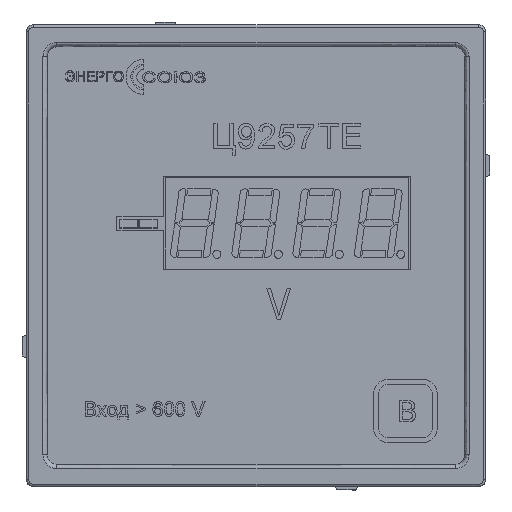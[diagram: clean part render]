
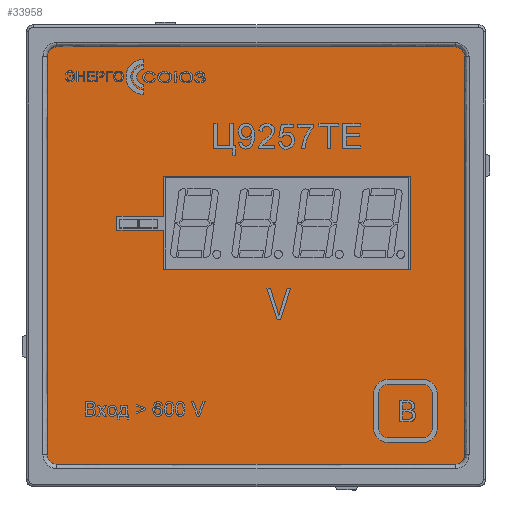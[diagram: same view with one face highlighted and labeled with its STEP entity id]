
A CAD part, top view. The second image highlights one B-rep face of the part: STEP entity #33958.
In plain terms, the highlighted planar face has unit normal (0, 0, 1).
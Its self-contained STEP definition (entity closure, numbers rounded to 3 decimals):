
#114 = AXIS2_PLACEMENT_3D ( 'NONE', #66237, #49463, #80962 ) ;
#970 = CIRCLE ( 'NONE', #91860, 1. ) ;
#1674 = CIRCLE ( 'NONE', #114, 1. ) ;
#3347 = CARTESIAN_POINT ( 'NONE',  ( 31.999, 16.397, 0. ) ) ;
#3842 = CARTESIAN_POINT ( 'NONE',  ( -43.77, -43.769, 0. ) ) ;
#4700 = VECTOR ( 'NONE', #10841, 1000. ) ;
#5131 = CARTESIAN_POINT ( 'NONE',  ( -44.77, -44.769, 0. ) ) ;
#5143 = EDGE_CURVE ( 'NONE', #89810, #27941, #50990, .T. ) ;
#5691 = AXIS2_PLACEMENT_3D ( 'NONE', #76184, #38035, #6562 ) ;
#6562 = DIRECTION ( 'NONE',  ( -1., 0., 0. ) ) ;
#8451 = VERTEX_POINT ( 'NONE', #61450 ) ;
#8534 = ORIENTED_EDGE ( 'NONE', *, *, #67597, .T. ) ;
#8544 = DIRECTION ( 'NONE',  ( 0., -1., 0. ) ) ;
#9609 = EDGE_CURVE ( 'NONE', #93718, #50923, #19336, .T. ) ;
#9688 = VERTEX_POINT ( 'NONE', #85733 ) ;
#10518 = ORIENTED_EDGE ( 'NONE', *, *, #97157, .T. ) ;
#10841 = DIRECTION ( 'NONE',  ( 1., 0., 0. ) ) ;
#13471 = CARTESIAN_POINT ( 'NONE',  ( 44.77, -44.769, 0. ) ) ;
#14040 = LINE ( 'NONE', #72129, #41871 ) ;
#14076 = CARTESIAN_POINT ( 'NONE',  ( -19.104, 5.235, 0. ) ) ;
#15636 = DIRECTION ( 'NONE',  ( 0., -1., 0. ) ) ;
#16452 = ORIENTED_EDGE ( 'NONE', *, *, #82774, .T. ) ;
#16474 = CARTESIAN_POINT ( 'NONE',  ( -19.104, -2.937, 0. ) ) ;
#18901 = EDGE_CURVE ( 'NONE', #77132, #56161, #48339, .T. ) ;
#19336 = LINE ( 'NONE', #5131, #63429 ) ;
#19929 = VERTEX_POINT ( 'NONE', #55987 ) ;
#22440 = CARTESIAN_POINT ( 'NONE',  ( -19.104, -2.937, 0. ) ) ;
#23540 = VERTEX_POINT ( 'NONE', #14076 ) ;
#24791 = CARTESIAN_POINT ( 'NONE',  ( -28.75, 5.235, 0. ) ) ;
#27578 = CARTESIAN_POINT ( 'NONE',  ( -44.77, 43.769, 0. ) ) ;
#27941 = VERTEX_POINT ( 'NONE', #92272 ) ;
#28903 = FACE_OUTER_BOUND ( 'NONE', #91216, .T. ) ;
#30280 = DIRECTION ( 'NONE',  ( -1., 0., 0. ) ) ;
#31427 = LINE ( 'NONE', #78663, #73723 ) ;
#33476 = DIRECTION ( 'NONE',  ( -1., 0., 0. ) ) ;
#33587 = EDGE_LOOP ( 'NONE', ( #52746, #85053, #45502, #47606, #44379, #84949, #43474, #43259 ) ) ;
#33656 = CIRCLE ( 'NONE', #74225, 1. ) ;
#33958 = ADVANCED_FACE ( 'NONE', ( #51792, #28903 ), #75159, .F. ) ;
#34386 = CARTESIAN_POINT ( 'NONE',  ( -43.77, -44.769, 0. ) ) ;
#37259 = VECTOR ( 'NONE', #97867, 1000. ) ;
#37549 = CARTESIAN_POINT ( 'NONE',  ( -28.75, 5.235, 0. ) ) ;
#38035 = DIRECTION ( 'NONE',  ( 0., 0., -1. ) ) ;
#39430 = VECTOR ( 'NONE', #15636, 1000. ) ;
#40311 = LINE ( 'NONE', #16474, #53960 ) ;
#40637 = EDGE_CURVE ( 'NONE', #53760, #78518, #76570, .T. ) ;
#41052 = CARTESIAN_POINT ( 'NONE',  ( -43.77, 44.77, 0. ) ) ;
#41871 = VECTOR ( 'NONE', #33476, 1000. ) ;
#42225 = DIRECTION ( 'NONE',  ( 1., 0., 0. ) ) ;
#42772 = VERTEX_POINT ( 'NONE', #24791 ) ;
#43259 = ORIENTED_EDGE ( 'NONE', *, *, #5143, .F. ) ;
#43474 = ORIENTED_EDGE ( 'NONE', *, *, #75558, .F. ) ;
#44379 = ORIENTED_EDGE ( 'NONE', *, *, #51886, .F. ) ;
#45473 = LINE ( 'NONE', #13471, #51351 ) ;
#45502 = ORIENTED_EDGE ( 'NONE', *, *, #49520, .F. ) ;
#46065 = ORIENTED_EDGE ( 'NONE', *, *, #62365, .T. ) ;
#46700 = CARTESIAN_POINT ( 'NONE',  ( -44.77, -43.769, 0. ) ) ;
#47361 = CARTESIAN_POINT ( 'NONE',  ( -44.77, -44.769, 0. ) ) ;
#47606 = ORIENTED_EDGE ( 'NONE', *, *, #73346, .F. ) ;
#47656 = CARTESIAN_POINT ( 'NONE',  ( 31.999, 16.397, 0. ) ) ;
#48339 = LINE ( 'NONE', #47361, #64736 ) ;
#48378 = EDGE_CURVE ( 'NONE', #62125, #8451, #66612, .T. ) ;
#48695 = CARTESIAN_POINT ( 'NONE',  ( 43.77, -43.769, 0. ) ) ;
#48849 = DIRECTION ( 'NONE',  ( 1., 0., 0. ) ) ;
#49463 = DIRECTION ( 'NONE',  ( 0., 0., 1. ) ) ;
#49520 = EDGE_CURVE ( 'NONE', #94973, #42772, #84772, .T. ) ;
#49953 = CIRCLE ( 'NONE', #92184, 1. ) ;
#50093 = DIRECTION ( 'NONE',  ( -1., 0., 0. ) ) ;
#50672 = ORIENTED_EDGE ( 'NONE', *, *, #18901, .T. ) ;
#50923 = VERTEX_POINT ( 'NONE', #90143 ) ;
#50990 = LINE ( 'NONE', #73845, #4700 ) ;
#51351 = VECTOR ( 'NONE', #51579, 1000. ) ;
#51579 = DIRECTION ( 'NONE',  ( 0., 1., 0. ) ) ;
#51792 = FACE_BOUND ( 'NONE', #33587, .T. ) ;
#51886 = EDGE_CURVE ( 'NONE', #8451, #19929, #31427, .T. ) ;
#52746 = ORIENTED_EDGE ( 'NONE', *, *, #79234, .F. ) ;
#53642 = EDGE_CURVE ( 'NONE', #50923, #99664, #970, .T. ) ;
#53760 = VERTEX_POINT ( 'NONE', #67479 ) ;
#53960 = VECTOR ( 'NONE', #93668, 1000. ) ;
#55190 = VECTOR ( 'NONE', #86287, 1000. ) ;
#55987 = CARTESIAN_POINT ( 'NONE',  ( -19.135, 8.175, 0. ) ) ;
#56161 = VERTEX_POINT ( 'NONE', #46700 ) ;
#57332 = DIRECTION ( 'NONE',  ( -1., 0., 0. ) ) ;
#60908 = CARTESIAN_POINT ( 'NONE',  ( 44.77, -43.769, 0. ) ) ;
#61450 = CARTESIAN_POINT ( 'NONE',  ( -19.135, 16.397, 0. ) ) ;
#62125 = VERTEX_POINT ( 'NONE', #3347 ) ;
#62365 = EDGE_CURVE ( 'NONE', #9688, #53760, #1674, .T. ) ;
#63300 = DIRECTION ( 'NONE',  ( 0., 0., 1. ) ) ;
#63429 = VECTOR ( 'NONE', #42225, 1000. ) ;
#64736 = VECTOR ( 'NONE', #70255, 1000. ) ;
#65343 = ORIENTED_EDGE ( 'NONE', *, *, #9609, .T. ) ;
#66237 = CARTESIAN_POINT ( 'NONE',  ( 43.77, 43.77, 0. ) ) ;
#66612 = LINE ( 'NONE', #97555, #81794 ) ;
#67479 = CARTESIAN_POINT ( 'NONE',  ( 43.77, 44.77, 0. ) ) ;
#67597 = EDGE_CURVE ( 'NONE', #99664, #9688, #45473, .T. ) ;
#70255 = DIRECTION ( 'NONE',  ( 0., -1., 0. ) ) ;
#72129 = CARTESIAN_POINT ( 'NONE',  ( -28.75, 8.175, 0. ) ) ;
#72227 = LINE ( 'NONE', #80826, #98771 ) ;
#73346 = EDGE_CURVE ( 'NONE', #19929, #94973, #14040, .T. ) ;
#73723 = VECTOR ( 'NONE', #8544, 1000. ) ;
#73845 = CARTESIAN_POINT ( 'NONE',  ( 31.999, -2.937, 0. ) ) ;
#74225 = AXIS2_PLACEMENT_3D ( 'NONE', #3842, #81596, #50093 ) ;
#74731 = DIRECTION ( 'NONE',  ( -1., 0., 0. ) ) ;
#75159 = PLANE ( 'NONE',  #5691 ) ;
#75558 = EDGE_CURVE ( 'NONE', #27941, #62125, #85285, .T. ) ;
#76184 = CARTESIAN_POINT ( 'NONE',  ( 0., 0., 0. ) ) ;
#76570 = LINE ( 'NONE', #82671, #37259 ) ;
#77132 = VERTEX_POINT ( 'NONE', #27578 ) ;
#78034 = CARTESIAN_POINT ( 'NONE',  ( -43.77, 43.77, 0. ) ) ;
#78518 = VERTEX_POINT ( 'NONE', #41052 ) ;
#78663 = CARTESIAN_POINT ( 'NONE',  ( -19.135, 8.175, 0. ) ) ;
#79234 = EDGE_CURVE ( 'NONE', #23540, #89810, #40311, .T. ) ;
#80826 = CARTESIAN_POINT ( 'NONE',  ( -19.104, 5.235, 0. ) ) ;
#80962 = DIRECTION ( 'NONE',  ( -1., 0., 0. ) ) ;
#81596 = DIRECTION ( 'NONE',  ( 0., 0., 1. ) ) ;
#81794 = VECTOR ( 'NONE', #74731, 1000. ) ;
#82671 = CARTESIAN_POINT ( 'NONE',  ( -44.77, 44.77, 0. ) ) ;
#82774 = EDGE_CURVE ( 'NONE', #78518, #77132, #49953, .T. ) ;
#84546 = EDGE_CURVE ( 'NONE', #42772, #23540, #72227, .T. ) ;
#84772 = LINE ( 'NONE', #37549, #39430 ) ;
#84949 = ORIENTED_EDGE ( 'NONE', *, *, #48378, .F. ) ;
#85053 = ORIENTED_EDGE ( 'NONE', *, *, #84546, .F. ) ;
#85285 = LINE ( 'NONE', #47656, #55190 ) ;
#85733 = CARTESIAN_POINT ( 'NONE',  ( 44.77, 43.769, 0. ) ) ;
#86287 = DIRECTION ( 'NONE',  ( 0., 1., 0. ) ) ;
#86314 = DIRECTION ( 'NONE',  ( 0., 0., 1. ) ) ;
#86408 = ORIENTED_EDGE ( 'NONE', *, *, #53642, .T. ) ;
#87091 = CARTESIAN_POINT ( 'NONE',  ( -28.75, 8.175, 0. ) ) ;
#89810 = VERTEX_POINT ( 'NONE', #22440 ) ;
#90143 = CARTESIAN_POINT ( 'NONE',  ( 43.77, -44.769, 0. ) ) ;
#91216 = EDGE_LOOP ( 'NONE', ( #99809, #16452, #50672, #10518, #65343, #86408, #8534, #46065 ) ) ;
#91860 = AXIS2_PLACEMENT_3D ( 'NONE', #48695, #86314, #57332 ) ;
#92184 = AXIS2_PLACEMENT_3D ( 'NONE', #78034, #63300, #30280 ) ;
#92272 = CARTESIAN_POINT ( 'NONE',  ( 31.999, -2.937, 0. ) ) ;
#93668 = DIRECTION ( 'NONE',  ( 0., -1., 0. ) ) ;
#93718 = VERTEX_POINT ( 'NONE', #34386 ) ;
#94973 = VERTEX_POINT ( 'NONE', #87091 ) ;
#97157 = EDGE_CURVE ( 'NONE', #56161, #93718, #33656, .T. ) ;
#97555 = CARTESIAN_POINT ( 'NONE',  ( -19.135, 16.397, 0. ) ) ;
#97867 = DIRECTION ( 'NONE',  ( -1., 0., 0. ) ) ;
#98771 = VECTOR ( 'NONE', #48849, 1000. ) ;
#99664 = VERTEX_POINT ( 'NONE', #60908 ) ;
#99809 = ORIENTED_EDGE ( 'NONE', *, *, #40637, .T. ) ;
